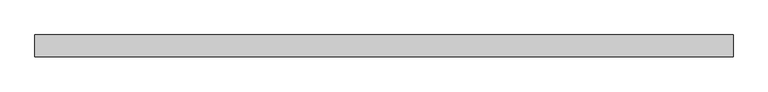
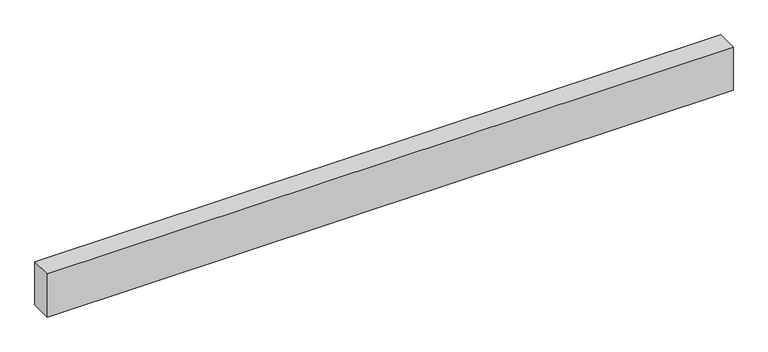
"""IFC4 building model written with IfcOpenShell, lengths in millimetres: proxy geometry."""

from ifc_helpers import new_model, si_unit, frame, origin, place, context, project, spatial, polyline, outline, extrude, source, transform, mapped, element, save


def structural_framing_77b6ca6f(model_context):
    return source(origin(), model_context, "Body", "SweptSolid", [
        extrude(outline(polyline([(-2247.8, -70.0), (-2247.8, 70.0), (2247.8, 70.0), (2247.8, -70.0), (-2247.8, -70.0)])), frame((0.0, 0.0, -300.0), z_axis=(0.0, 0.0, 1.0), x_axis=(1.0, 0.0, 0.0)), (0.0, 0.0, 1.0), 300.0),
    ])


if __name__ == "__main__":
    model = new_model("IFC4")
    model_context = context("Model", 3, world=origin())
    ifc_project = project(units=[si_unit("LENGTHUNIT", "METRE", prefix="MILLI")], contexts=[model_context])
    site = spatial("IfcSite", under=ifc_project)
    building = spatial("IfcBuilding", under=site)
    placement = place(None, origin())
    structural_framing_shape = structural_framing_77b6ca6f(model_context)
    element("IfcBuildingElementProxy", 1, Name="Structural Framing", at=placement, inside=building, context=model_context, shape_type="MappedRepresentation", body=[
        mapped(structural_framing_shape, transform((0.0, 0.0, 0.0), x_axis=(1.0, 0.0, 0.0), y_axis=(0.0, 1.0, 0.0), z_axis=(0.0, 0.0, 1.0))),
    ])
    save(model, "model.ifc")
